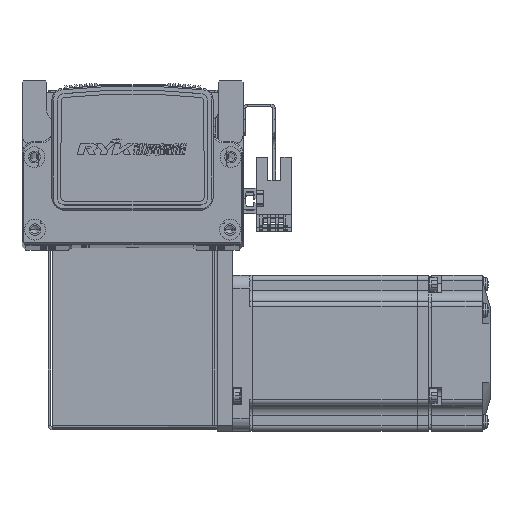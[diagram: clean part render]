
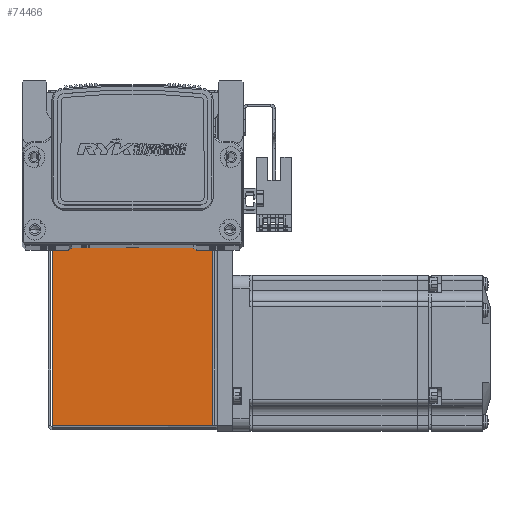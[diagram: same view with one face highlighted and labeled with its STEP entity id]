
A CAD part, top view. The second image highlights one B-rep face of the part: STEP entity #74466.
In plain terms, the highlighted planar face has unit normal (0, 0, 1).
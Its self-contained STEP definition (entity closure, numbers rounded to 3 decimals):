
#3491 = VECTOR ( 'NONE', #18843, 1000. ) ;
#3566 = LINE ( 'NONE', #18807, #3491 ) ;
#3712 = LINE ( 'NONE', #18965, #3763 ) ;
#3763 = VECTOR ( 'NONE', #18979, 1000. ) ;
#5167 = LINE ( 'NONE', #18607, #5174 ) ;
#5174 = VECTOR ( 'NONE', #18698, 1000. ) ;
#5727 = AXIS2_PLACEMENT_3D ( 'NONE', #64493, #64480, #64515 ) ;
#18454 = EDGE_CURVE ( 'NONE', #24756, #24886, #5167, .T. ) ;
#18505 = EDGE_CURVE ( 'NONE', #24820, #24812, #3566, .T. ) ;
#18559 = EDGE_CURVE ( 'NONE', #24886, #24812, #3712, .T. ) ;
#18607 = CARTESIAN_POINT ( 'NONE',  ( -32.5, 0.737, 35. ) ) ;
#18618 = EDGE_CURVE ( 'NONE', #24756, #24820, #33479, .T. ) ;
#18698 = DIRECTION ( 'NONE',  ( -1., 0., 0. ) ) ;
#18807 = CARTESIAN_POINT ( 'NONE',  ( 0., 72.5, 35. ) ) ;
#18843 = DIRECTION ( 'NONE',  ( -1., 0., 0. ) ) ;
#18965 = CARTESIAN_POINT ( 'NONE',  ( -30.793, 0., 35. ) ) ;
#18979 = DIRECTION ( 'NONE',  ( 0., 1., 0. ) ) ;
#19217 = CARTESIAN_POINT ( 'NONE',  ( 30.763, 0.737, 35. ) ) ;
#19243 = DIRECTION ( 'NONE',  ( 0., 1., 0. ) ) ;
#23201 = EDGE_LOOP ( 'NONE', ( #39186, #39205, #39156, #39244 ) ) ;
#24756 = VERTEX_POINT ( 'NONE', #65861 ) ;
#24812 = VERTEX_POINT ( 'NONE', #65864 ) ;
#24820 = VERTEX_POINT ( 'NONE', #65880 ) ;
#24886 = VERTEX_POINT ( 'NONE', #65886 ) ;
#33479 = LINE ( 'NONE', #19217, #33481 ) ;
#33481 = VECTOR ( 'NONE', #19243, 1000. ) ;
#39156 = ORIENTED_EDGE ( 'NONE', *, *, #18559, .F. ) ;
#39186 = ORIENTED_EDGE ( 'NONE', *, *, #18618, .T. ) ;
#39205 = ORIENTED_EDGE ( 'NONE', *, *, #18505, .T. ) ;
#39244 = ORIENTED_EDGE ( 'NONE', *, *, #18454, .F. ) ;
#64459 = PLANE ( 'NONE',  #5727 ) ;
#64480 = DIRECTION ( 'NONE',  ( 0., 0., -1. ) ) ;
#64493 = CARTESIAN_POINT ( 'NONE',  ( 0., 0., 35. ) ) ;
#64515 = DIRECTION ( 'NONE',  ( -1., 0., 0. ) ) ;
#65861 = CARTESIAN_POINT ( 'NONE',  ( 30.763, 0.737, 35. ) ) ;
#65864 = CARTESIAN_POINT ( 'NONE',  ( -30.793, 72.5, 35. ) ) ;
#65880 = CARTESIAN_POINT ( 'NONE',  ( 30.763, 72.5, 35. ) ) ;
#65886 = CARTESIAN_POINT ( 'NONE',  ( -30.793, 0.737, 35. ) ) ;
#74466 = ADVANCED_FACE ( 'NONE', ( #81812 ), #64459, .F. ) ;
#81812 = FACE_OUTER_BOUND ( 'NONE', #23201, .T. ) ;
